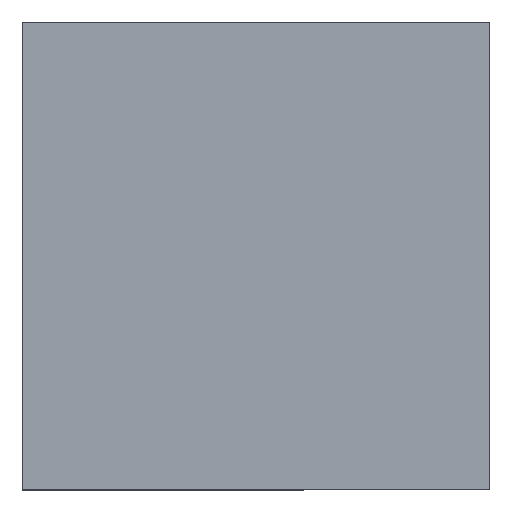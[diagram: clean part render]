
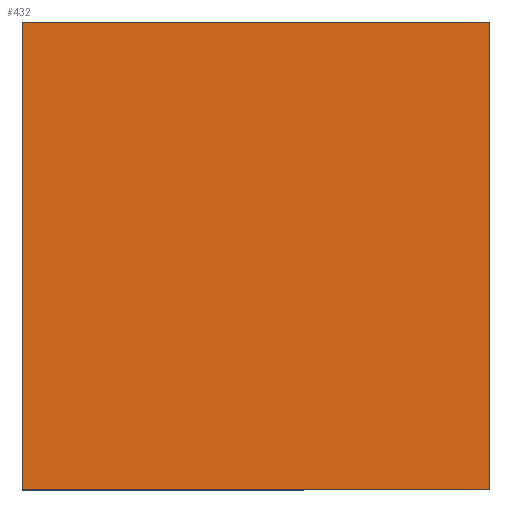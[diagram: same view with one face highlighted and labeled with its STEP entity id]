
A CAD part, top view. The second image highlights one B-rep face of the part: STEP entity #432.
In plain terms, the highlighted planar face has unit normal (0, 0, 1).
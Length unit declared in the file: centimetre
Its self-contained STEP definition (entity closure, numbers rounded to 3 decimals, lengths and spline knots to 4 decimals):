
#21 = VECTOR ( 'NONE', #150, 100. ) ;
#40 = LINE ( 'NONE', #633, #446 ) ;
#53 = VERTEX_POINT ( 'NONE', #398 ) ;
#60 = VECTOR ( 'NONE', #747, 100. ) ;
#71 = LINE ( 'NONE', #314, #60 ) ;
#75 = ORIENTED_EDGE ( 'NONE', *, *, #641, .T. ) ;
#96 = VECTOR ( 'NONE', #755, 100. ) ;
#100 = EDGE_CURVE ( 'NONE', #53, #127, #268, .T. ) ;
#127 = VERTEX_POINT ( 'NONE', #444 ) ;
#150 = DIRECTION ( 'NONE',  ( -1., 0., 0. ) ) ;
#178 = EDGE_CURVE ( 'NONE', #127, #597, #351, .T. ) ;
#252 = DIRECTION ( 'NONE',  ( 1., 0., 0. ) ) ;
#262 = ORIENTED_EDGE ( 'NONE', *, *, #178, .T. ) ;
#268 = LINE ( 'NONE', #687, #21 ) ;
#270 = CARTESIAN_POINT ( 'NONE',  ( 1000., 0., 1000. ) ) ;
#280 = DIRECTION ( 'NONE',  ( 1., 0., 0. ) ) ;
#314 = CARTESIAN_POINT ( 'NONE',  ( 1000., 1000., 1000. ) ) ;
#351 = LINE ( 'NONE', #758, #96 ) ;
#391 = EDGE_LOOP ( 'NONE', ( #262, #75, #704, #558 ) ) ;
#398 = CARTESIAN_POINT ( 'NONE',  ( 1000., 1000., 1000. ) ) ;
#413 = AXIS2_PLACEMENT_3D ( 'NONE', #552, #502, #252 ) ;
#432 = ADVANCED_FACE ( 'NONE', ( #487 ), #605, .T. ) ;
#444 = CARTESIAN_POINT ( 'NONE',  ( 0., 1000., 1000. ) ) ;
#446 = VECTOR ( 'NONE', #280, 100. ) ;
#476 = EDGE_CURVE ( 'NONE', #538, #53, #71, .T. ) ;
#487 = FACE_OUTER_BOUND ( 'NONE', #391, .T. ) ;
#502 = DIRECTION ( 'NONE',  ( 0., 0., 1. ) ) ;
#513 = CARTESIAN_POINT ( 'NONE',  ( 0., 0., 1000. ) ) ;
#538 = VERTEX_POINT ( 'NONE', #270 ) ;
#552 = CARTESIAN_POINT ( 'NONE',  ( 0., 0., 1000. ) ) ;
#558 = ORIENTED_EDGE ( 'NONE', *, *, #100, .T. ) ;
#597 = VERTEX_POINT ( 'NONE', #513 ) ;
#605 = PLANE ( 'NONE',  #413 ) ;
#633 = CARTESIAN_POINT ( 'NONE',  ( 0., 0., 1000. ) ) ;
#641 = EDGE_CURVE ( 'NONE', #597, #538, #40, .T. ) ;
#687 = CARTESIAN_POINT ( 'NONE',  ( 0., 1000., 1000. ) ) ;
#704 = ORIENTED_EDGE ( 'NONE', *, *, #476, .T. ) ;
#747 = DIRECTION ( 'NONE',  ( 0., 1., 0. ) ) ;
#755 = DIRECTION ( 'NONE',  ( 0., -1., 0. ) ) ;
#758 = CARTESIAN_POINT ( 'NONE',  ( 0., 1000., 1000. ) ) ;
